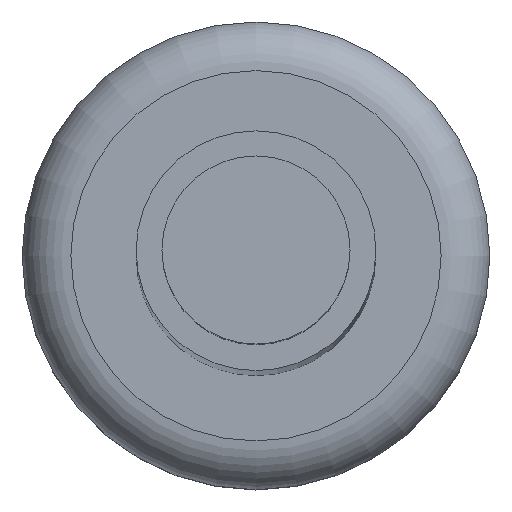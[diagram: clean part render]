
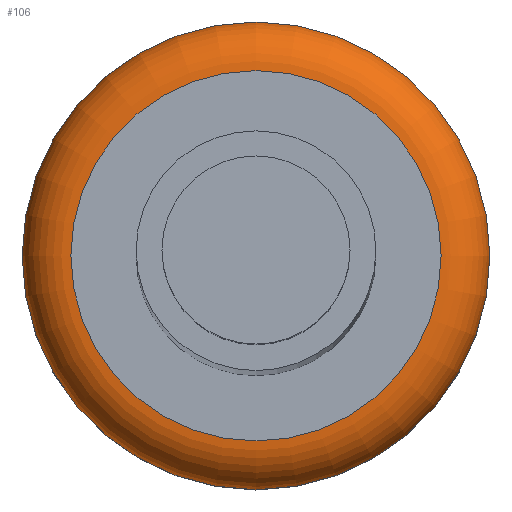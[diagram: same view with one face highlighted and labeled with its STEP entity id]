
A CAD part, top view. The second image highlights one B-rep face of the part: STEP entity #106.
In plain terms, the highlighted toroidal (fillet/blend) face has major radius 1.9 mm and minor radius 0.5 mm.
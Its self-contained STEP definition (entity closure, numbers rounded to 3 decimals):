
#35=TOROIDAL_SURFACE('',#280,1.9,0.5);
#106=ADVANCED_FACE('',(#124,#125),#35,.T.);
#124=FACE_BOUND('',#148,.T.);
#125=FACE_BOUND('',#149,.T.);
#148=EDGE_LOOP('',(#200));
#149=EDGE_LOOP('',(#201));
#200=ORIENTED_EDGE('',*,*,#225,.F.);
#201=ORIENTED_EDGE('',*,*,#226,.F.);
#205=VERTEX_POINT('',#359);
#206=VERTEX_POINT('',#362);
#225=EDGE_CURVE('',#205,#205,#251,.T.);
#226=EDGE_CURVE('',#206,#206,#252,.T.);
#251=CIRCLE('',#262,2.4);
#252=CIRCLE('',#264,1.9);
#262=AXIS2_PLACEMENT_3D('',#358,#293,#294);
#264=AXIS2_PLACEMENT_3D('',#361,#297,#298);
#280=AXIS2_PLACEMENT_3D('',#411,#347,#348);
#293=DIRECTION('',(0.,0.,-1.));
#294=DIRECTION('',(1.,0.,0.));
#297=DIRECTION('',(0.,0.,1.));
#298=DIRECTION('',(1.,0.,0.));
#347=DIRECTION('',(0.,0.,1.));
#348=DIRECTION('',(1.,0.,0.));
#358=CARTESIAN_POINT('',(-63.75,0.,1.95));
#359=CARTESIAN_POINT('',(-61.35,0.,1.95));
#361=CARTESIAN_POINT('',(-63.75,0.,2.45));
#362=CARTESIAN_POINT('',(-61.85,0.,2.45));
#411=CARTESIAN_POINT('',(-63.75,0.,1.95));
